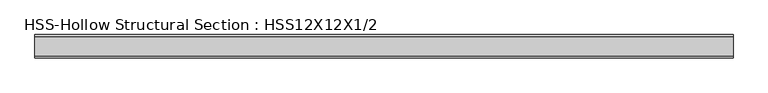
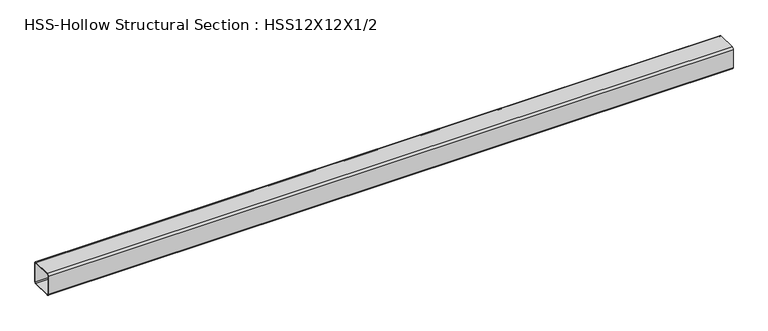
"""IFC4 building model written with IfcOpenShell, lengths in millimetres: beam geometry, HSS-Hollow Structural Section : HSS12X12X1/2."""

from ifc_helpers import new_model, si_unit, point, frame, frame_2d, origin, place, context, project, spatial, polyline, circle_curve, trimmed, segment, composite_curve, outline, extrude, source, transform, mapped, element, save


def hss_hollow_structural_section_hss12x12x1_2_c205e00b(model_context):
    return source(origin(), model_context, "Body", "SweptSolid", [
        extrude(outline(composite_curve([segment(polyline([(152.4, 128.778), (152.4, -128.778)]), True, "CONTINUOUS"), segment(trimmed(circle_curve(frame_2d((128.778, -128.778)), 23.622), [point((152.4, -128.778))], [point((128.778, -152.4))], False, "CARTESIAN"), True, "CONTINUOUS"), segment(polyline([(128.778, -152.4), (-128.778, -152.4)]), True, "CONTINUOUS"), segment(trimmed(circle_curve(frame_2d((-128.778, -128.778)), 23.622), [point((-128.778, -152.4))], [point((-152.4, -128.778))], False, "CARTESIAN"), True, "CONTINUOUS"), segment(polyline([(-152.4, -128.778), (-152.4, 128.778)]), True, "CONTINUOUS"), segment(trimmed(circle_curve(frame_2d((-128.778, 128.778)), 23.622), [point((-152.4, 128.778))], [point((-128.778, 152.4))], False, "CARTESIAN"), True, "CONTINUOUS"), segment(polyline([(-128.778, 152.4), (128.778, 152.4)]), True, "CONTINUOUS"), segment(trimmed(circle_curve(frame_2d((128.778, 128.778)), 23.622), [point((128.778, 152.4))], [point((152.4, 128.778))], False, "CARTESIAN"), True, "CONTINUOUS")], self_intersect=False), holes=[composite_curve([segment(trimmed(circle_curve(frame_2d((-128.778, 128.778)), 11.811), [point((-128.778, 140.589))], [point((-140.589, 128.778))], True, "CARTESIAN"), True, "CONTINUOUS"), segment(polyline([(-140.589, 128.778), (-140.589, -128.778)]), True, "CONTINUOUS"), segment(trimmed(circle_curve(frame_2d((-128.778, -128.778)), 11.811), [point((-140.589, -128.778))], [point((-128.778, -140.589))], True, "CARTESIAN"), True, "CONTINUOUS"), segment(polyline([(-128.778, -140.589), (128.778, -140.589)]), True, "CONTINUOUS"), segment(trimmed(circle_curve(frame_2d((128.778, -128.778)), 11.811), [point((128.778, -140.589))], [point((140.589, -128.778))], True, "CARTESIAN"), True, "CONTINUOUS"), segment(polyline([(140.589, -128.778), (140.589, 128.778)]), True, "CONTINUOUS"), segment(trimmed(circle_curve(frame_2d((128.778, 128.778)), 11.811), [point((140.589, 128.778))], [point((128.778, 140.589))], True, "CARTESIAN"), True, "CONTINUOUS"), segment(polyline([(128.778, 140.589), (-128.778, 140.589)]), True, "CONTINUOUS")], self_intersect=False)]), frame((-4648.2, 0.0, 0.0), z_axis=(1.0, 0.0, 0.0), x_axis=(0.0, 1.0, 0.0)), (0.0, 0.0, 1.0), 9144.0),
    ])


if __name__ == "__main__":
    model = new_model("IFC4")
    model_context = context("Model", 3, world=origin())
    ifc_project = project(units=[si_unit("LENGTHUNIT", "METRE", prefix="MILLI")], contexts=[model_context])
    site = spatial("IfcSite", under=ifc_project)
    building = spatial("IfcBuilding", under=site)
    placement = place(None, origin())
    hss_hollow_structural_section_hss12x12x1_2_shape = hss_hollow_structural_section_hss12x12x1_2_c205e00b(model_context)
    element("IfcBeam", 1, ObjectType="HSS-Hollow Structural Section : HSS12X12X1/2", at=placement, inside=building, context=model_context, shape_type="MappedRepresentation", body=[
        mapped(hss_hollow_structural_section_hss12x12x1_2_shape, transform((0.0, 0.0, 0.0), x_axis=(1.0, 0.0, 0.0), y_axis=(0.0, 1.0, 0.0), z_axis=(0.0, 0.0, 1.0))),
    ])
    save(model, "model.ifc")
